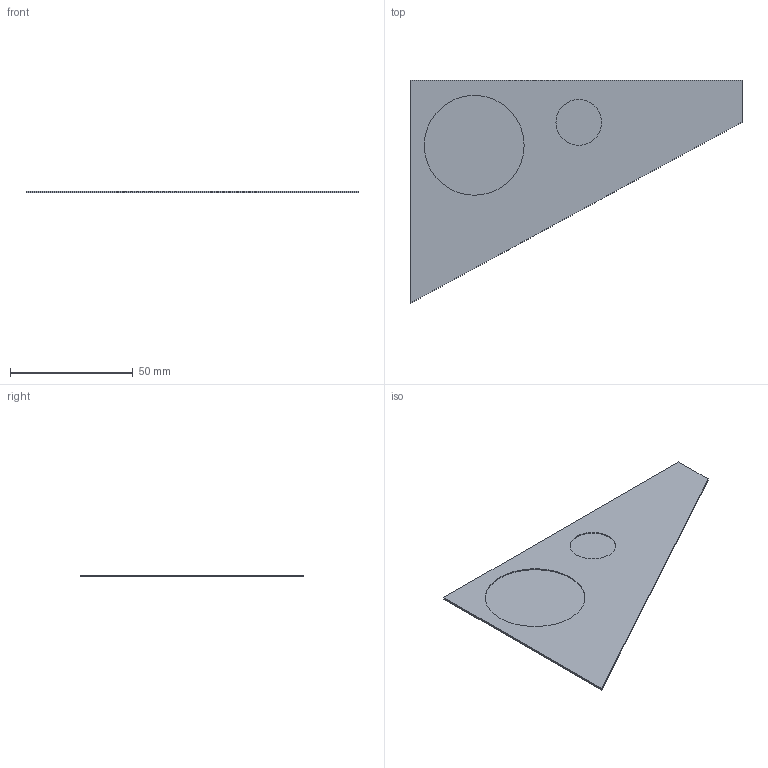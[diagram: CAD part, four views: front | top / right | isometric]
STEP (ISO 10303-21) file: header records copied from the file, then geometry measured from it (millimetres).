
FILE_DESCRIPTION(('STEP AP203'), '1');
FILE_NAME('ìàñêà äåêè ïåðåä 2', '', ('UNSPECIFIED'), ('UNSPECIFIED'), 'ASCON STEP Converter 1.3', 'ASCON Math Kernel', '');
FILE_SCHEMA(('CONFIG_CONTROL_DESIGN'));
Length unit declared in the file: millimetre
Bounding box: 135.02 x 90.7 x 0.8 mm (x, y, z)
Volume: 5190.3 mm3; surface area: 14933.6 mm2
Topology: 1 solids, 1 shells, 10 faces, 18 edges, 12 vertices
Faces by surface type: plane 8, cylinder 2
Full cylindrical faces by diameter (mm): 18.6 x1, 40.6 x1
Entity records: 360 total; most frequent: DIRECTION 42, CARTESIAN_POINT 39, ORIENTED_EDGE 32, EDGE_CURVE 16, AXIS2_PLACEMENT_3D 15, EDGE_LOOP 14, VERTEX_POINT 12, LINE 12
